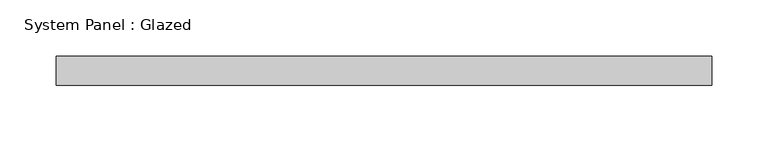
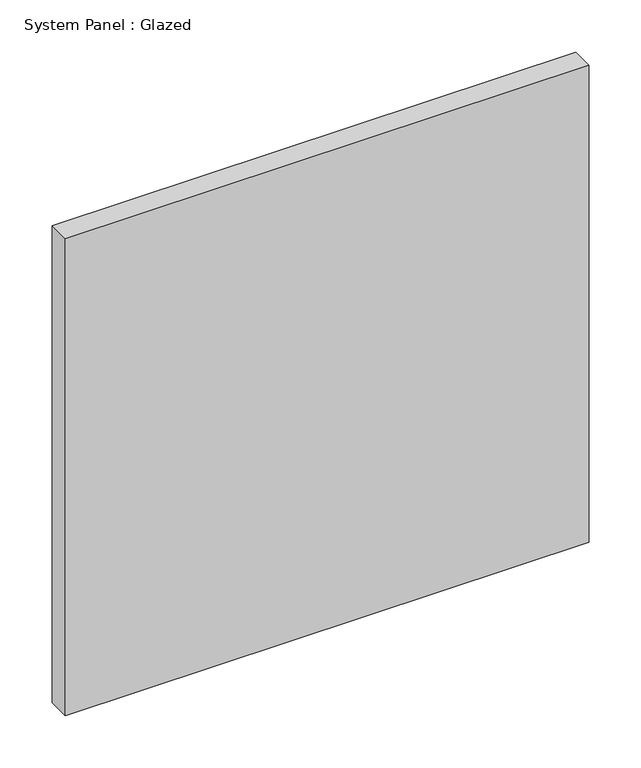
"""IFC4 building model written with IfcOpenShell, lengths in millimetres: plate geometry, System Panel : Glazed."""

from ifc_helpers import new_model, si_unit, origin, origin_with_axes, place, context, project, spatial, polyline, outline, extrude, source, transform, mapped, element, save


def system_panel_glazed_c33bc469(model_context):
    return source(origin(), model_context, "Body", "SweptSolid", [
        extrude(outline(polyline([(290.2494502, -12.7), (-290.2494502, -12.7), (-290.2494502, 12.7), (290.2494502, 12.7), (290.2494502, -12.7)])), origin_with_axes(), (0.0, 0.0, 1.0), 558.8),
    ])


if __name__ == "__main__":
    model = new_model("IFC4")
    model_context = context("Model", 3, world=origin())
    ifc_project = project(units=[si_unit("LENGTHUNIT", "METRE", prefix="MILLI")], contexts=[model_context])
    site = spatial("IfcSite", under=ifc_project)
    building = spatial("IfcBuilding", under=site)
    placement = place(None, origin())
    system_panel_glazed_shape = system_panel_glazed_c33bc469(model_context)
    element("IfcPlate", 1, ObjectType="System Panel : Glazed", at=placement, inside=building, context=model_context, shape_type="MappedRepresentation", body=[
        mapped(system_panel_glazed_shape, transform((0.0, 0.0, 0.0), x_axis=(1.0, 0.0, 0.0), y_axis=(0.0, 1.0, 0.0), z_axis=(0.0, 0.0, 1.0))),
    ])
    save(model, "model.ifc")
